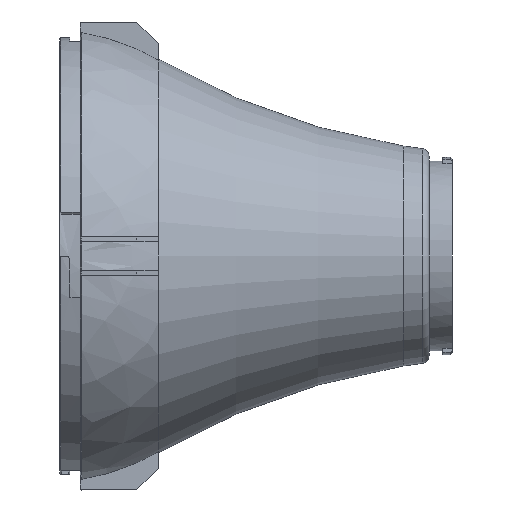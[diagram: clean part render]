
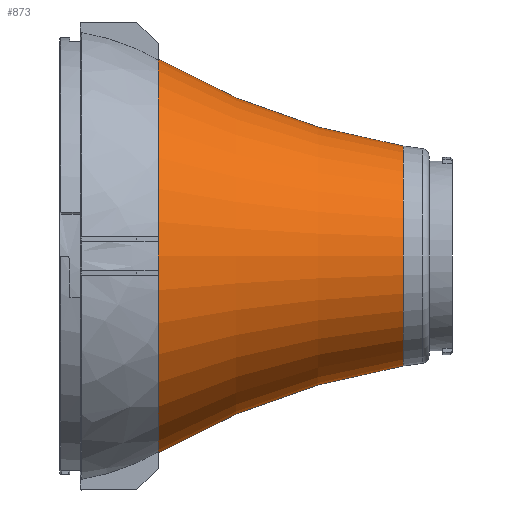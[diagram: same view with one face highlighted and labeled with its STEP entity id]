
A CAD part, left-side view. The second image highlights one B-rep face of the part: STEP entity #873.
In plain terms, the highlighted toroidal (fillet/blend) face has major radius 125.573 mm and minor radius 110 mm.
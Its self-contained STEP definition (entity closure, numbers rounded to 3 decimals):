
#434 = VERTEX_POINT('',#435);
#435 = CARTESIAN_POINT('',(0.,-32.222,
    -16.939));
#442 = VERTEX_POINT('',#443);
#443 = CARTESIAN_POINT('',(0.,-32.222,16.939));
#873 = ADVANCED_FACE('',(#874),#908,.F.);
#874 = FACE_BOUND('',#875,.F.);
#875 = EDGE_LOOP('',(#876,#885,#892,#901));
#876 = ORIENTED_EDGE('',*,*,#877,.T.);
#877 = EDGE_CURVE('',#878,#442,#880,.T.);
#878 = VERTEX_POINT('',#879);
#879 = CARTESIAN_POINT('',(0.,5.5,
    30.311));
#880 = CIRCLE('',#881,110.);
#881 = AXIS2_PLACEMENT_3D('',#882,#883,#884);
#882 = CARTESIAN_POINT('',(0.,-49.5,125.574));
#883 = DIRECTION('',(-1.,-0.,0.));
#884 = DIRECTION('',(0.,0.,1.));
#885 = ORIENTED_EDGE('',*,*,#886,.F.);
#886 = EDGE_CURVE('',#434,#442,#887,.T.);
#887 = CIRCLE('',#888,16.939);
#888 = AXIS2_PLACEMENT_3D('',#889,#890,#891);
#889 = CARTESIAN_POINT('',(0.,-32.222,0.));
#890 = DIRECTION('',(-0.,1.,0.));
#891 = DIRECTION('',(0.,0.,1.));
#892 = ORIENTED_EDGE('',*,*,#893,.F.);
#893 = EDGE_CURVE('',#894,#434,#896,.T.);
#894 = VERTEX_POINT('',#895);
#895 = CARTESIAN_POINT('',(0.,5.5,-30.311));
#896 = CIRCLE('',#897,110.);
#897 = AXIS2_PLACEMENT_3D('',#898,#899,#900);
#898 = CARTESIAN_POINT('',(0.,-49.5,
    -125.574));
#899 = DIRECTION('',(1.,0.,0.));
#900 = DIRECTION('',(0.,0.,-1.));
#901 = ORIENTED_EDGE('',*,*,#902,.T.);
#902 = EDGE_CURVE('',#894,#878,#903,.T.);
#903 = CIRCLE('',#904,30.311);
#904 = AXIS2_PLACEMENT_3D('',#905,#906,#907);
#905 = CARTESIAN_POINT('',(0.,5.5,0.));
#906 = DIRECTION('',(-0.,1.,0.));
#907 = DIRECTION('',(0.,0.,1.));
#908 = TOROIDAL_SURFACE('',#909,125.574,110.);
#909 = AXIS2_PLACEMENT_3D('',#910,#911,#912);
#910 = CARTESIAN_POINT('',(0.,-49.5,0.));
#911 = DIRECTION('',(-0.,1.,0.));
#912 = DIRECTION('',(0.,0.,1.));
